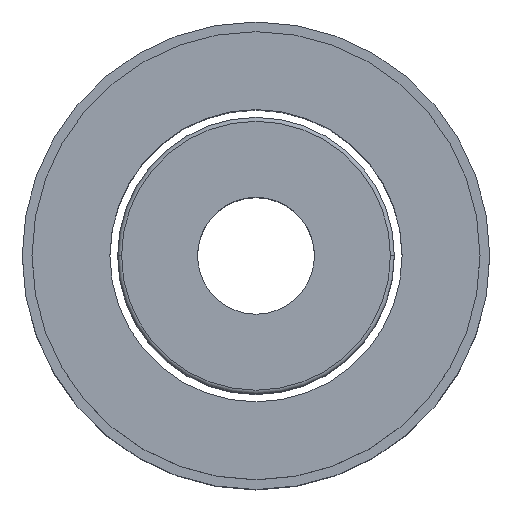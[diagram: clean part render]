
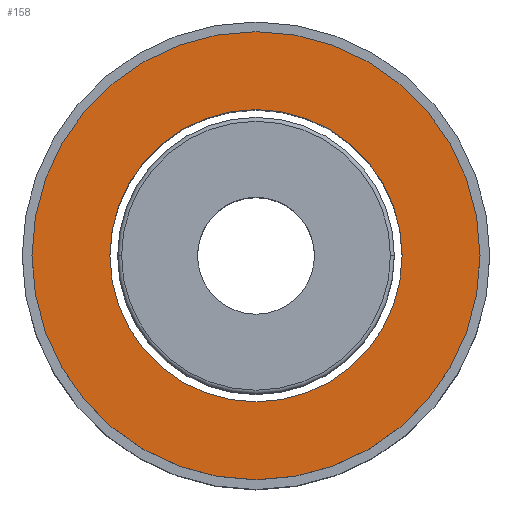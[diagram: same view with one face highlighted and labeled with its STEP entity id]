
A CAD part, top view. The second image highlights one B-rep face of the part: STEP entity #158.
In plain terms, the highlighted planar face has unit normal (0, 0, 1).
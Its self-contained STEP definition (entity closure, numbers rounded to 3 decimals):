
#10 = EDGE_CURVE ( 'NONE', #613, #672, #86, .T. ) ;
#73 = ORIENTED_EDGE ( 'NONE', *, *, #10, .F. ) ;
#86 = CIRCLE ( 'NONE', #885, 3.75 ) ;
#88 = AXIS2_PLACEMENT_3D ( 'NONE', #304, #950, #130 ) ;
#118 = AXIS2_PLACEMENT_3D ( 'NONE', #592, #859, #754 ) ;
#126 = DIRECTION ( 'NONE',  ( 1., 0., 0. ) ) ;
#130 = DIRECTION ( 'NONE',  ( 1., 0., 0. ) ) ;
#141 = CARTESIAN_POINT ( 'NONE',  ( 5.75, 0., 0. ) ) ;
#145 = EDGE_LOOP ( 'NONE', ( #73, #690 ) ) ;
#158 = ADVANCED_FACE ( 'NONE', ( #814, #1097 ), #219, .F. ) ;
#186 = CARTESIAN_POINT ( 'NONE',  ( 0., 0., 0. ) ) ;
#189 = ORIENTED_EDGE ( 'NONE', *, *, #991, .T. ) ;
#191 = CARTESIAN_POINT ( 'NONE',  ( 0., 0., 0. ) ) ;
#195 = DIRECTION ( 'NONE',  ( 1., 0., 0. ) ) ;
#219 = PLANE ( 'NONE',  #118 ) ;
#230 = DIRECTION ( 'NONE',  ( 1., 0., 0. ) ) ;
#238 = DIRECTION ( 'NONE',  ( 0., 0., 1. ) ) ;
#286 = CIRCLE ( 'NONE', #88, 3.75 ) ;
#304 = CARTESIAN_POINT ( 'NONE',  ( 0., 0., 0. ) ) ;
#321 = CARTESIAN_POINT ( 'NONE',  ( 0., 0., 0. ) ) ;
#365 = EDGE_CURVE ( 'NONE', #672, #613, #286, .T. ) ;
#512 = CARTESIAN_POINT ( 'NONE',  ( 3.75, 0., 0. ) ) ;
#592 = CARTESIAN_POINT ( 'NONE',  ( 0., 5.75, 0. ) ) ;
#613 = VERTEX_POINT ( 'NONE', #512 ) ;
#636 = VERTEX_POINT ( 'NONE', #869 ) ;
#637 = EDGE_CURVE ( 'NONE', #1122, #636, #864, .T. ) ;
#671 = CARTESIAN_POINT ( 'NONE',  ( -3.75, 0., 0. ) ) ;
#672 = VERTEX_POINT ( 'NONE', #671 ) ;
#690 = ORIENTED_EDGE ( 'NONE', *, *, #365, .F. ) ;
#718 = ORIENTED_EDGE ( 'NONE', *, *, #637, .T. ) ;
#736 = AXIS2_PLACEMENT_3D ( 'NONE', #321, #238, #230 ) ;
#741 = DIRECTION ( 'NONE',  ( 0., 0., 1. ) ) ;
#754 = DIRECTION ( 'NONE',  ( -1., 0., 0. ) ) ;
#814 = FACE_BOUND ( 'NONE', #145, .T. ) ;
#859 = DIRECTION ( 'NONE',  ( 0., 0., -1. ) ) ;
#864 = CIRCLE ( 'NONE', #736, 5.75 ) ;
#869 = CARTESIAN_POINT ( 'NONE',  ( -5.75, 0., 0. ) ) ;
#885 = AXIS2_PLACEMENT_3D ( 'NONE', #191, #741, #126 ) ;
#891 = DIRECTION ( 'NONE',  ( 0., 0., 1. ) ) ;
#917 = EDGE_LOOP ( 'NONE', ( #718, #189 ) ) ;
#950 = DIRECTION ( 'NONE',  ( 0., 0., 1. ) ) ;
#966 = AXIS2_PLACEMENT_3D ( 'NONE', #186, #891, #195 ) ;
#985 = CIRCLE ( 'NONE', #966, 5.75 ) ;
#991 = EDGE_CURVE ( 'NONE', #636, #1122, #985, .T. ) ;
#1097 = FACE_OUTER_BOUND ( 'NONE', #917, .T. ) ;
#1122 = VERTEX_POINT ( 'NONE', #141 ) ;
